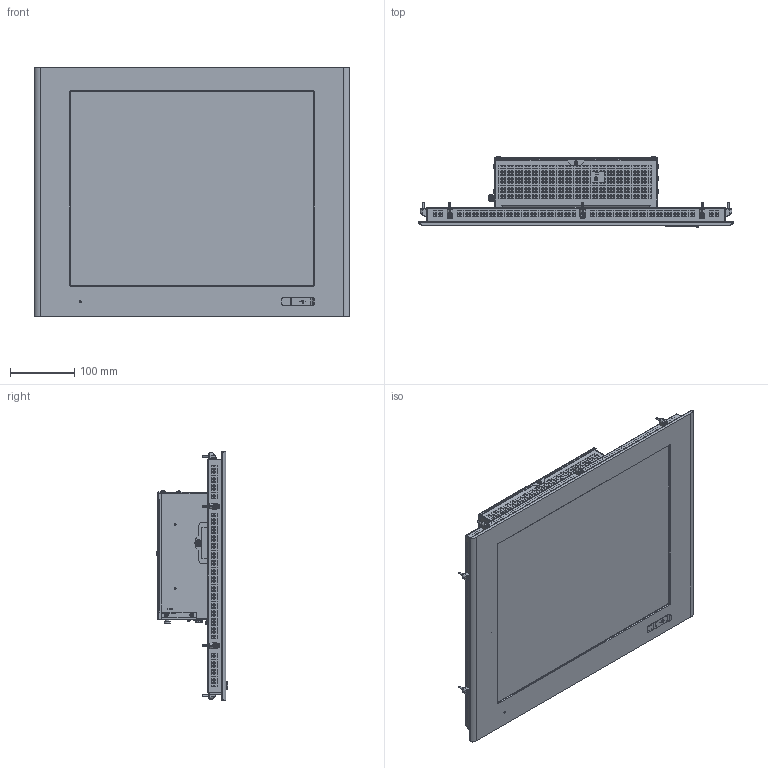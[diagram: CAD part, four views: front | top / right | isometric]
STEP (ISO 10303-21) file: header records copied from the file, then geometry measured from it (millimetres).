
FILE_DESCRIPTION((''),'2;1');
FILE_NAME('C6E22-Panel_190_RES_S1','2017-03-07T',('manpal'),(''),'PRO/ENGINEER BY PARAMETRIC TECHNOLOGY CORPORATION, 2013410','PRO/ENGINEER BY PARAMETRIC TECHNOLOGY CORPORATION, 2013410','');
FILE_SCHEMA(('AUTOMOTIVE_DESIGN { 1 0 10303 214 1 1 1 1 }'));
Products named in the file (2): C6E22-Panel_190_RES_S1_
Assembly tree (1 placements, depth 2):
  C6E22-Panel_190_RES_S1_
    C6E22-Panel_190_RES_S1_
Bounding box: 490 x 110.92 x 388 mm (x, y, z)
Surface area: 1090436.9 mm2 (no closed solid volume)
Topology: 0 solids, 354 shells, 5512 faces, 24093 edges, 18703 vertices
Faces by surface type: plane 4262, cylinder 733, cone 263, bspline 168, torus 42, sphere 42, extrusion 2
Entity records: 275478 total; most frequent: CARTESIAN_POINT 65042, DIRECTION 36531, ORIENTED_EDGE 34559, EDGE_CURVE 24049, VECTOR 19617, LINE 19615, VERTEX_POINT 18703, AXIS2_PLACEMENT_3D 8457
